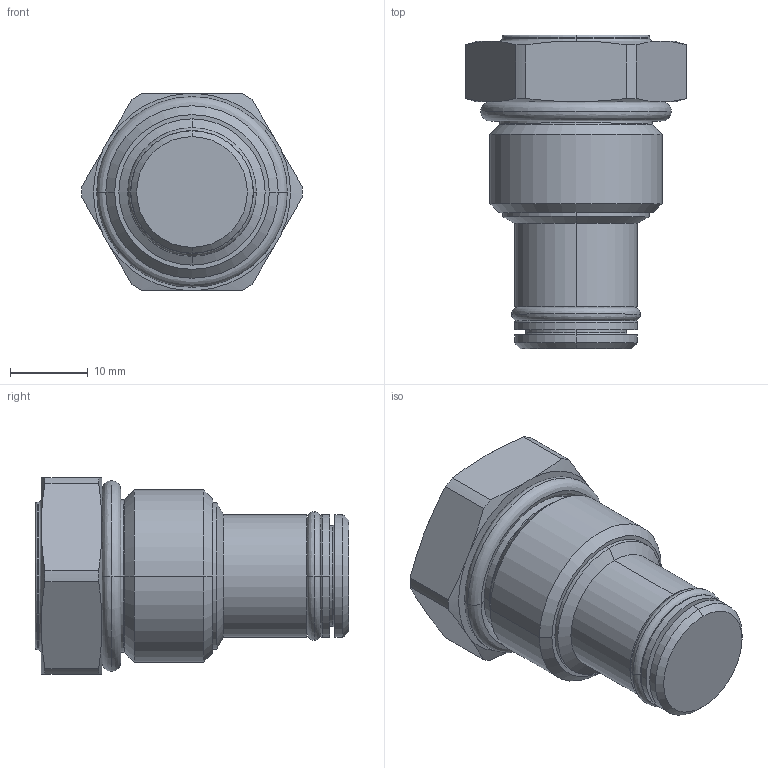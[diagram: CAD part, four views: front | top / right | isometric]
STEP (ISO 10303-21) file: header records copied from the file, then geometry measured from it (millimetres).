
FILE_DESCRIPTION((''),'2;1');
FILE_NAME('5208000_SW0001','2009-01-29T',('JCS'),(''),'PRO/ENGINEER BY PARAMETRIC TECHNOLOGY CORPORATION, 2008010','PRO/ENGINEER BY PARAMETRIC TECHNOLOGY CORPORATION, 2008010','');
FILE_SCHEMA(('CONFIG_CONTROL_DESIGN'));
Length unit declared in the file: inch
Products named in the file (1): 5208000_SW0001
Bounding box: 28.44 x 40.41 x 25.34 mm (x, y, z)
Volume: 13533.1 mm3; surface area: 4735.4 mm2
Topology: 4 solids, 4 shells, 94 faces, 208 edges, 120 vertices
Faces by surface type: cone 24, cylinder 24, torus 18, revolution 16, plane 12
Entity records: 2984 total; most frequent: CARTESIAN_POINT 862, DIRECTION 454, ORIENTED_EDGE 416, EDGE_CURVE 208, AXIS2_PLACEMENT_3D 192, VERTEX_POINT 120, CIRCLE 114, EDGE_LOOP 98
